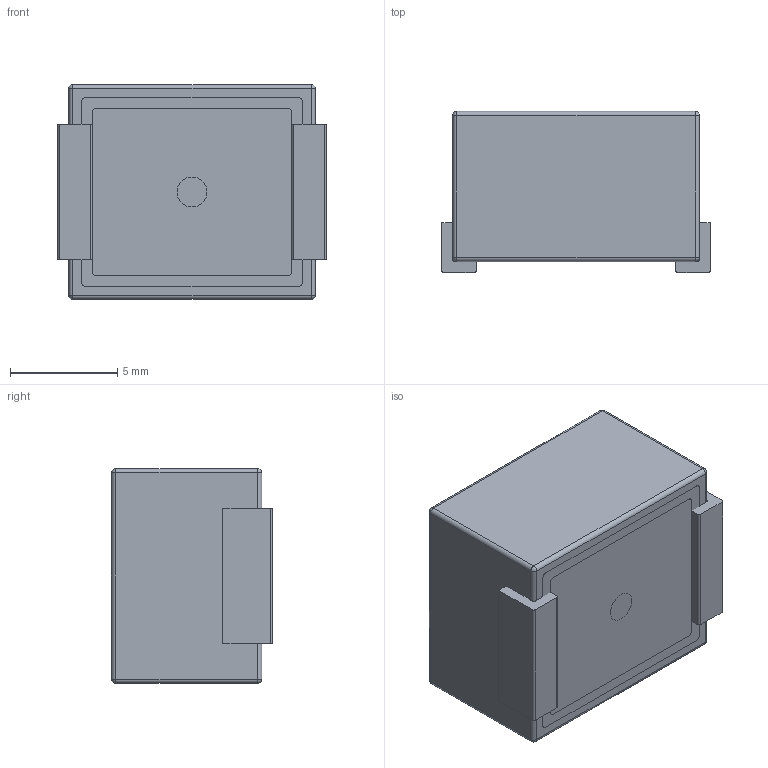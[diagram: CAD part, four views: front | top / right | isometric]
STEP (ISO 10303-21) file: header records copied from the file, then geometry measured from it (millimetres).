
FILE_DESCRIPTION (( 'STEP AP214' ), '1' );
FILE_NAME ('0708060.STEP', '2026-05-13T04:03:04', ( '' ), ( '' ), 'SwSTEP 2.0', 'SolidWorks 2026', '' );
FILE_SCHEMA (( 'AUTOMOTIVE_DESIGN' ));
Length unit declared in the file: millimetre
Products named in the file (1): 0708060
Bounding box: 12.5 x 7.5 x 10 mm (x, y, z)
Volume: 835.3 mm3; surface area: 858.4 mm2
Topology: 5 solids, 5 shells, 135 faces, 332 edges, 208 vertices
Faces by surface type: plane 69, cylinder 40, bspline 18, sphere 8
Entity records: 5711 total; most frequent: CARTESIAN_POINT 2006, ORIENTED_EDGE 648, DIRECTION 604, EDGE_CURVE 324, VECTOR 208, VERTEX_POINT 208, LINE 208, AXIS2_PLACEMENT_3D 198
